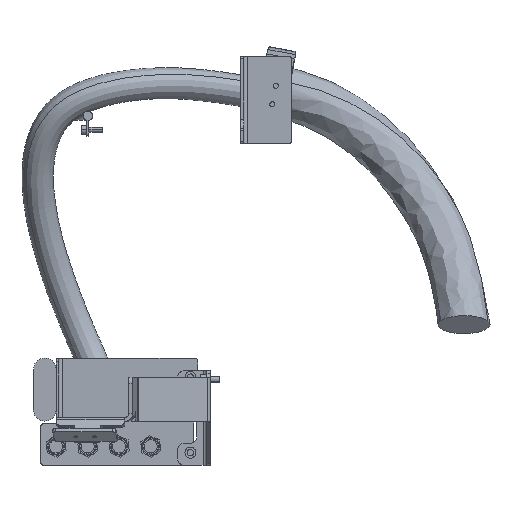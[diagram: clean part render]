
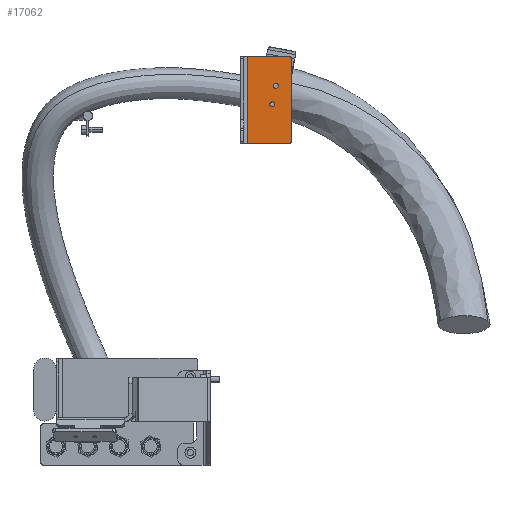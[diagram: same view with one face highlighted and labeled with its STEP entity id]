
A CAD part, left-side view. The second image highlights one B-rep face of the part: STEP entity #17062.
In plain terms, the highlighted planar face has unit normal (-1, 0, 0).
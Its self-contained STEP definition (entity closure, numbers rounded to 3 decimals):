
#332 = CIRCLE ( 'NONE', #36932, 3. ) ;
#879 = AXIS2_PLACEMENT_3D ( 'NONE', #24074, #40347, #32316 ) ;
#1185 = CARTESIAN_POINT ( 'NONE',  ( 529., -207., 2449. ) ) ;
#2046 = ORIENTED_EDGE ( 'NONE', *, *, #23211, .T. ) ;
#2821 = AXIS2_PLACEMENT_3D ( 'NONE', #19986, #24535, #36248 ) ;
#3520 = DIRECTION ( 'NONE',  ( 0., 1., 0. ) ) ;
#3526 = VERTEX_POINT ( 'NONE', #13187 ) ;
#3629 = EDGE_CURVE ( 'NONE', #29163, #3526, #32673, .T. ) ;
#3788 = PLANE ( 'NONE',  #879 ) ;
#3814 = CARTESIAN_POINT ( 'NONE',  ( 529., -184., 2376.5 ) ) ;
#4317 = CARTESIAN_POINT ( 'NONE',  ( 529., -185.5, 2405.992 ) ) ;
#6553 = VECTOR ( 'NONE', #46271, 1000. ) ;
#7791 = FACE_BOUND ( 'NONE', #47063, .T. ) ;
#8459 = LINE ( 'NONE', #40738, #50597 ) ;
#8789 = CARTESIAN_POINT ( 'NONE',  ( 529., -176., 2376.5 ) ) ;
#8793 = CIRCLE ( 'NONE', #24117, 4. ) ;
#8927 = CARTESIAN_POINT ( 'NONE',  ( 529., -189.5, 2405.992 ) ) ;
#10109 = VECTOR ( 'NONE', #12929, 1000. ) ;
#11140 = AXIS2_PLACEMENT_3D ( 'NONE', #35720, #16263, #12531 ) ;
#12531 = DIRECTION ( 'NONE',  ( 0., 1., 0. ) ) ;
#12680 = DIRECTION ( 'NONE',  ( 1., 0., 0. ) ) ;
#12736 = VERTEX_POINT ( 'NONE', #36219 ) ;
#12929 = DIRECTION ( 'NONE',  ( 0., 0., 1. ) ) ;
#13187 = CARTESIAN_POINT ( 'NONE',  ( 529., -207., 2314. ) ) ;
#13837 = CARTESIAN_POINT ( 'NONE',  ( 529., -140., 2452. ) ) ;
#14361 = EDGE_CURVE ( 'NONE', #24618, #18256, #30578, .T. ) ;
#14911 = EDGE_CURVE ( 'NONE', #29163, #49497, #50093, .T. ) ;
#14980 = ORIENTED_EDGE ( 'NONE', *, *, #49693, .T. ) ;
#15263 = AXIS2_PLACEMENT_3D ( 'NONE', #16683, #12680, #40967 ) ;
#15580 = EDGE_LOOP ( 'NONE', ( #40213, #48687, #31965, #32056, #34311, #48419 ) ) ;
#16263 = DIRECTION ( 'NONE',  ( 1., 0., 0. ) ) ;
#16335 = FACE_OUTER_BOUND ( 'NONE', #15580, .T. ) ;
#16683 = CARTESIAN_POINT ( 'NONE',  ( 529., -185.5, 2405.992 ) ) ;
#17062 = ADVANCED_FACE ( 'NONE', ( #44349, #7791, #16335 ), #3788, .F. ) ;
#17527 = DIRECTION ( 'NONE',  ( 0., 0., 1. ) ) ;
#17727 = CARTESIAN_POINT ( 'NONE',  ( 529., -207., 2452. ) ) ;
#17972 = DIRECTION ( 'NONE',  ( 0., 1., 0. ) ) ;
#18256 = VERTEX_POINT ( 'NONE', #47507 ) ;
#19986 = CARTESIAN_POINT ( 'NONE',  ( 529., -207., 2317. ) ) ;
#20193 = DIRECTION ( 'NONE',  ( 0., 1., 0. ) ) ;
#22175 = EDGE_CURVE ( 'NONE', #18256, #24618, #22311, .T. ) ;
#22311 = CIRCLE ( 'NONE', #46155, 4. ) ;
#22437 = CIRCLE ( 'NONE', #2821, 3. ) ;
#23211 = EDGE_CURVE ( 'NONE', #33884, #37684, #30717, .T. ) ;
#23285 = EDGE_LOOP ( 'NONE', ( #14980, #2046 ) ) ;
#24074 = CARTESIAN_POINT ( 'NONE',  ( 529., -135., 2452. ) ) ;
#24117 = AXIS2_PLACEMENT_3D ( 'NONE', #39682, #30902, #34626 ) ;
#24535 = DIRECTION ( 'NONE',  ( -1., 0., 0. ) ) ;
#24618 = VERTEX_POINT ( 'NONE', #8927 ) ;
#24679 = CARTESIAN_POINT ( 'NONE',  ( 529., -210., 2452. ) ) ;
#27554 = ORIENTED_EDGE ( 'NONE', *, *, #14361, .T. ) ;
#27861 = EDGE_CURVE ( 'NONE', #46783, #49497, #8459, .T. ) ;
#29163 = VERTEX_POINT ( 'NONE', #42784 ) ;
#30578 = CIRCLE ( 'NONE', #15263, 4. ) ;
#30717 = CIRCLE ( 'NONE', #11140, 4. ) ;
#30902 = DIRECTION ( 'NONE',  ( 1., 0., 0. ) ) ;
#31965 = ORIENTED_EDGE ( 'NONE', *, *, #27861, .T. ) ;
#32056 = ORIENTED_EDGE ( 'NONE', *, *, #14911, .F. ) ;
#32316 = DIRECTION ( 'NONE',  ( 0., 1., 0. ) ) ;
#32673 = LINE ( 'NONE', #48975, #6553 ) ;
#32858 = VERTEX_POINT ( 'NONE', #46022 ) ;
#33789 = CARTESIAN_POINT ( 'NONE',  ( 529., -140., 2314. ) ) ;
#33884 = VERTEX_POINT ( 'NONE', #3814 ) ;
#34311 = ORIENTED_EDGE ( 'NONE', *, *, #3629, .T. ) ;
#34626 = DIRECTION ( 'NONE',  ( 0., 1., 0. ) ) ;
#35720 = CARTESIAN_POINT ( 'NONE',  ( 529., -180., 2376.5 ) ) ;
#35752 = ORIENTED_EDGE ( 'NONE', *, *, #22175, .T. ) ;
#36219 = CARTESIAN_POINT ( 'NONE',  ( 529., -210., 2449. ) ) ;
#36248 = DIRECTION ( 'NONE',  ( 0., 1., 0. ) ) ;
#36932 = AXIS2_PLACEMENT_3D ( 'NONE', #1185, #50002, #17972 ) ;
#37684 = VERTEX_POINT ( 'NONE', #8789 ) ;
#39682 = CARTESIAN_POINT ( 'NONE',  ( 529., -180., 2376.5 ) ) ;
#40213 = ORIENTED_EDGE ( 'NONE', *, *, #42714, .T. ) ;
#40347 = DIRECTION ( 'NONE',  ( 1., 0., 0. ) ) ;
#40738 = CARTESIAN_POINT ( 'NONE',  ( 529., -135., 2452. ) ) ;
#40967 = DIRECTION ( 'NONE',  ( 0., 1., 0. ) ) ;
#42714 = EDGE_CURVE ( 'NONE', #32858, #12736, #49752, .T. ) ;
#42784 = CARTESIAN_POINT ( 'NONE',  ( 529., -140., 2314. ) ) ;
#44239 = VECTOR ( 'NONE', #17527, 1000. ) ;
#44349 = FACE_BOUND ( 'NONE', #23285, .T. ) ;
#44618 = DIRECTION ( 'NONE',  ( 1., 0., 0. ) ) ;
#46022 = CARTESIAN_POINT ( 'NONE',  ( 529., -210., 2317. ) ) ;
#46155 = AXIS2_PLACEMENT_3D ( 'NONE', #4317, #44618, #3520 ) ;
#46271 = DIRECTION ( 'NONE',  ( 0., -1., 0. ) ) ;
#46783 = VERTEX_POINT ( 'NONE', #17727 ) ;
#47063 = EDGE_LOOP ( 'NONE', ( #35752, #27554 ) ) ;
#47507 = CARTESIAN_POINT ( 'NONE',  ( 529., -181.5, 2405.992 ) ) ;
#48419 = ORIENTED_EDGE ( 'NONE', *, *, #49080, .T. ) ;
#48687 = ORIENTED_EDGE ( 'NONE', *, *, #50262, .T. ) ;
#48975 = CARTESIAN_POINT ( 'NONE',  ( 529., -135., 2314. ) ) ;
#49080 = EDGE_CURVE ( 'NONE', #3526, #32858, #22437, .T. ) ;
#49497 = VERTEX_POINT ( 'NONE', #13837 ) ;
#49693 = EDGE_CURVE ( 'NONE', #37684, #33884, #8793, .T. ) ;
#49752 = LINE ( 'NONE', #24679, #10109 ) ;
#50002 = DIRECTION ( 'NONE',  ( -1., 0., 0. ) ) ;
#50093 = LINE ( 'NONE', #33789, #44239 ) ;
#50262 = EDGE_CURVE ( 'NONE', #12736, #46783, #332, .T. ) ;
#50597 = VECTOR ( 'NONE', #20193, 1000. ) ;
